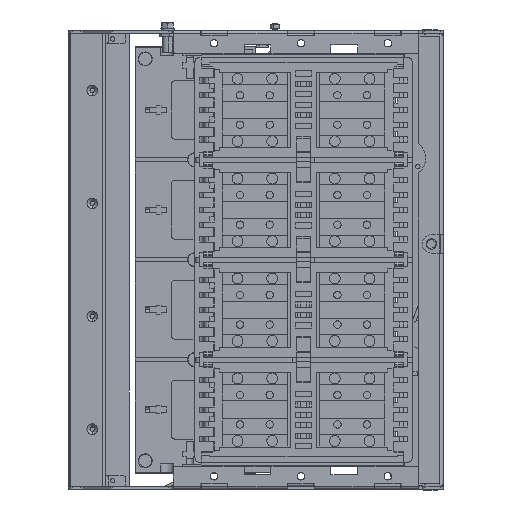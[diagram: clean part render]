
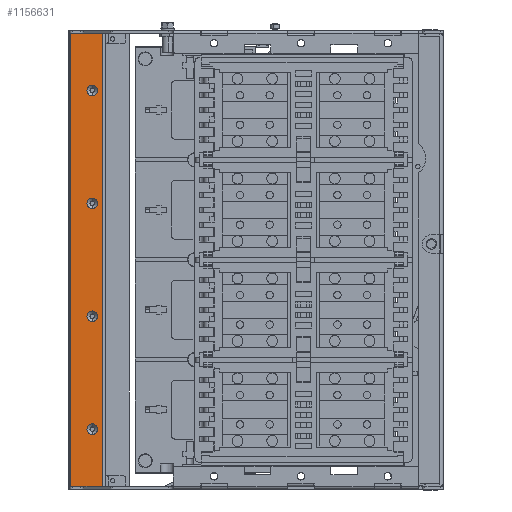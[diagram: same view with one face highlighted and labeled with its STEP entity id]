
A CAD part, left-side view. The second image highlights one B-rep face of the part: STEP entity #1156631.
In plain terms, the highlighted planar face has unit normal (-1, 0, 0).
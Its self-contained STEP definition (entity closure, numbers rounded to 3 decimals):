
#1151191=CARTESIAN_POINT(' ',(294.756,579.413,-172.412));
#1151192=VERTEX_POINT(' ',#1151191);
#1151206=CARTESIAN_POINT(' ',(294.756,616.613,-172.412));
#1151211=DIRECTION(' ',(0.,-1.,0.));
#1151216=VECTOR(' ',#1151211,1.);
#1151221=LINE('',#1151206,#1151216);
#1151226=CARTESIAN_POINT(' ',(294.756,616.613,-172.412));
#1151227=VERTEX_POINT(' ',#1151226);
#1151231=EDGE_CURVE(' ',#1151227,#1151192,#1151221,.T.);
#1151726=CARTESIAN_POINT(' ',(294.756,616.613,349.188));
#1151727=VERTEX_POINT(' ',#1151726);
#1151741=CARTESIAN_POINT(' ',(294.756,616.613,349.188));
#1151746=DIRECTION(' ',(0.,-1.,0.));
#1151751=VECTOR(' ',#1151746,1.);
#1151756=LINE('',#1151741,#1151751);
#1151761=CARTESIAN_POINT(' ',(294.756,579.413,349.188));
#1151762=VERTEX_POINT(' ',#1151761);
#1151766=EDGE_CURVE(' ',#1151727,#1151762,#1151756,.T.);
#1156026=CARTESIAN_POINT(' ',(294.756,579.413,-172.412));
#1156031=DIRECTION(' ',(0.,0.,1.));
#1156036=VECTOR(' ',#1156031,1.);
#1156041=LINE('',#1156026,#1156036);
#1156046=EDGE_CURVE(' ',#1151192,#1151762,#1156041,.T.);
#1156191=DIRECTION(' ',(-1.,-0.,-0.));
#1156196=CARTESIAN_POINT(' ',(294.756,579.413,-172.412));
#1156201=DIRECTION(' ',(0.,0.,1.));
#1156206=AXIS2_PLACEMENT_3D(' ',#1156196,#1156191,#1156201);
#1156211=PLANE('',#1156206);
#1156216=ORIENTED_EDGE(' ',*,*,#1151766,.F.);
#1156221=CARTESIAN_POINT(' ',(294.756,616.613,349.188));
#1156226=DIRECTION(' ',(0.,0.,-1.));
#1156231=VECTOR(' ',#1156226,1.);
#1156236=LINE('',#1156221,#1156231);
#1156241=EDGE_CURVE(' ',#1151727,#1151227,#1156236,.T.);
#1156246=ORIENTED_EDGE(' ',*,*,#1156241,.T.);
#1156251=ORIENTED_EDGE(' ',*,*,#1151231,.T.);
#1156256=ORIENTED_EDGE(' ',*,*,#1156046,.T.);
#1156261=EDGE_LOOP(' ',(#1156216,#1156246,#1156251,#1156256));
#1156266=FACE_OUTER_BOUND(' ',#1156261,.T.);
#1156271=CARTESIAN_POINT(' ',(294.756,591.613,23.388));
#1156276=DIRECTION(' ',(1.,0.,0.));
#1156281=DIRECTION(' ',(0.,0.,1.));
#1156286=AXIS2_PLACEMENT_3D(' ',#1156271,#1156276,#1156281);
#1156291=CIRCLE('',#1156286,6.1);
#1156296=CARTESIAN_POINT(' ',(294.756,591.613,29.488));
#1156297=VERTEX_POINT(' ',#1156296);
#1156301=CARTESIAN_POINT(' ',(294.756,591.613,17.288));
#1156302=VERTEX_POINT(' ',#1156301);
#1156306=EDGE_CURVE(' ',#1156297,#1156302,#1156291,.T.);
#1156311=ORIENTED_EDGE(' ',*,*,#1156306,.T.);
#1156316=CARTESIAN_POINT(' ',(294.756,591.613,23.388));
#1156321=DIRECTION(' ',(1.,0.,0.));
#1156326=DIRECTION(' ',(0.,0.,-1.));
#1156331=AXIS2_PLACEMENT_3D(' ',#1156316,#1156321,#1156326);
#1156336=CIRCLE('',#1156331,6.1);
#1156341=EDGE_CURVE(' ',#1156302,#1156297,#1156336,.T.);
#1156346=ORIENTED_EDGE(' ',*,*,#1156341,.T.);
#1156351=EDGE_LOOP(' ',(#1156311,#1156346));
#1156356=FACE_BOUND(' ',#1156351,.T.);
#1156361=CARTESIAN_POINT(' ',(294.756,591.613,153.388));
#1156366=DIRECTION(' ',(1.,0.,0.));
#1156371=DIRECTION(' ',(0.,0.,1.));
#1156376=AXIS2_PLACEMENT_3D(' ',#1156361,#1156366,#1156371);
#1156381=CIRCLE('',#1156376,6.1);
#1156386=CARTESIAN_POINT(' ',(294.756,591.613,159.488));
#1156387=VERTEX_POINT(' ',#1156386);
#1156391=CARTESIAN_POINT(' ',(294.756,591.613,147.288));
#1156392=VERTEX_POINT(' ',#1156391);
#1156396=EDGE_CURVE(' ',#1156387,#1156392,#1156381,.T.);
#1156401=ORIENTED_EDGE(' ',*,*,#1156396,.T.);
#1156406=CARTESIAN_POINT(' ',(294.756,591.613,153.388));
#1156411=DIRECTION(' ',(1.,0.,0.));
#1156416=DIRECTION(' ',(0.,0.,-1.));
#1156421=AXIS2_PLACEMENT_3D(' ',#1156406,#1156411,#1156416);
#1156426=CIRCLE('',#1156421,6.1);
#1156431=EDGE_CURVE(' ',#1156392,#1156387,#1156426,.T.);
#1156436=ORIENTED_EDGE(' ',*,*,#1156431,.T.);
#1156441=EDGE_LOOP(' ',(#1156401,#1156436));
#1156446=FACE_BOUND(' ',#1156441,.T.);
#1156451=CARTESIAN_POINT(' ',(294.756,591.613,283.388));
#1156456=DIRECTION(' ',(1.,0.,0.));
#1156461=DIRECTION(' ',(0.,0.,1.));
#1156466=AXIS2_PLACEMENT_3D(' ',#1156451,#1156456,#1156461);
#1156471=CIRCLE('',#1156466,6.1);
#1156476=CARTESIAN_POINT(' ',(294.756,591.613,289.488));
#1156477=VERTEX_POINT(' ',#1156476);
#1156481=CARTESIAN_POINT(' ',(294.756,591.613,277.288));
#1156482=VERTEX_POINT(' ',#1156481);
#1156486=EDGE_CURVE(' ',#1156477,#1156482,#1156471,.T.);
#1156491=ORIENTED_EDGE(' ',*,*,#1156486,.T.);
#1156496=CARTESIAN_POINT(' ',(294.756,591.613,283.388));
#1156501=DIRECTION(' ',(1.,0.,0.));
#1156506=DIRECTION(' ',(0.,0.,-1.));
#1156511=AXIS2_PLACEMENT_3D(' ',#1156496,#1156501,#1156506);
#1156516=CIRCLE('',#1156511,6.1);
#1156521=EDGE_CURVE(' ',#1156482,#1156477,#1156516,.T.);
#1156526=ORIENTED_EDGE(' ',*,*,#1156521,.T.);
#1156531=EDGE_LOOP(' ',(#1156491,#1156526));
#1156536=FACE_BOUND(' ',#1156531,.T.);
#1156541=CARTESIAN_POINT(' ',(294.756,591.613,-106.612));
#1156546=DIRECTION(' ',(1.,0.,0.));
#1156551=DIRECTION(' ',(0.,0.,1.));
#1156556=AXIS2_PLACEMENT_3D(' ',#1156541,#1156546,#1156551);
#1156561=CIRCLE('',#1156556,6.1);
#1156566=CARTESIAN_POINT(' ',(294.756,591.613,-100.512));
#1156567=VERTEX_POINT(' ',#1156566);
#1156571=CARTESIAN_POINT(' ',(294.756,591.613,-112.712));
#1156572=VERTEX_POINT(' ',#1156571);
#1156576=EDGE_CURVE(' ',#1156567,#1156572,#1156561,.T.);
#1156581=ORIENTED_EDGE(' ',*,*,#1156576,.T.);
#1156586=CARTESIAN_POINT(' ',(294.756,591.613,-106.612));
#1156591=DIRECTION(' ',(1.,0.,0.));
#1156596=DIRECTION(' ',(0.,0.,-1.));
#1156601=AXIS2_PLACEMENT_3D(' ',#1156586,#1156591,#1156596);
#1156606=CIRCLE('',#1156601,6.1);
#1156611=EDGE_CURVE(' ',#1156572,#1156567,#1156606,.T.);
#1156616=ORIENTED_EDGE(' ',*,*,#1156611,.T.);
#1156621=EDGE_LOOP(' ',(#1156581,#1156616));
#1156626=FACE_BOUND(' ',#1156621,.T.);
#1156631=ADVANCED_FACE('NONE',(#1156266,#1156356,#1156446,#1156536,#1156626),#1156211,.T.);
